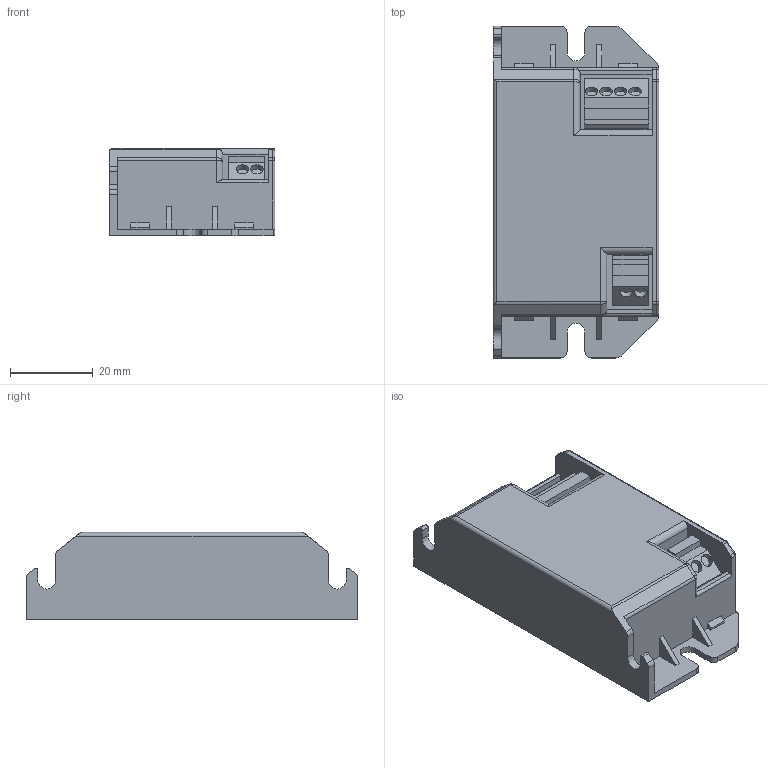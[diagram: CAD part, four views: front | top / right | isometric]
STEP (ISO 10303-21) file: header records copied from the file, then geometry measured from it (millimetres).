
FILE_DESCRIPTION((''),'2;1');
FILE_NAME('15007850Z','2013-06-24T',('juergen.hrach'),(''),'PRO/ENGINEER BY PARAMETRIC TECHNOLOGY CORPORATION, 2012420','PRO/ENGINEER BY PARAMETRIC TECHNOLOGY CORPORATION, 2012420','');
FILE_SCHEMA(('AUTOMOTIVE_DESIGN { 1 2 10303 214 0 1 1 1 }'));
Length unit declared in the file: millimetre
Products named in the file (1): 15007850Z
Bounding box: 40 x 80 x 21 mm (x, y, z)
Volume: 48609.1 mm3; surface area: 13100.6 mm2
Topology: 1 solids, 1 shells, 160 faces, 428 edges, 278 vertices
Faces by surface type: plane 98, cylinder 54, bspline 8
Entity records: 7111 total; most frequent: CARTESIAN_POINT 1209, ORIENTED_EDGE 856, DIRECTION 806, PRESENTATION_STYLE_ASSIGNMENT 469, STYLED_ITEM 429, CURVE_STYLE 428, EDGE_CURVE 428, VECTOR 318
